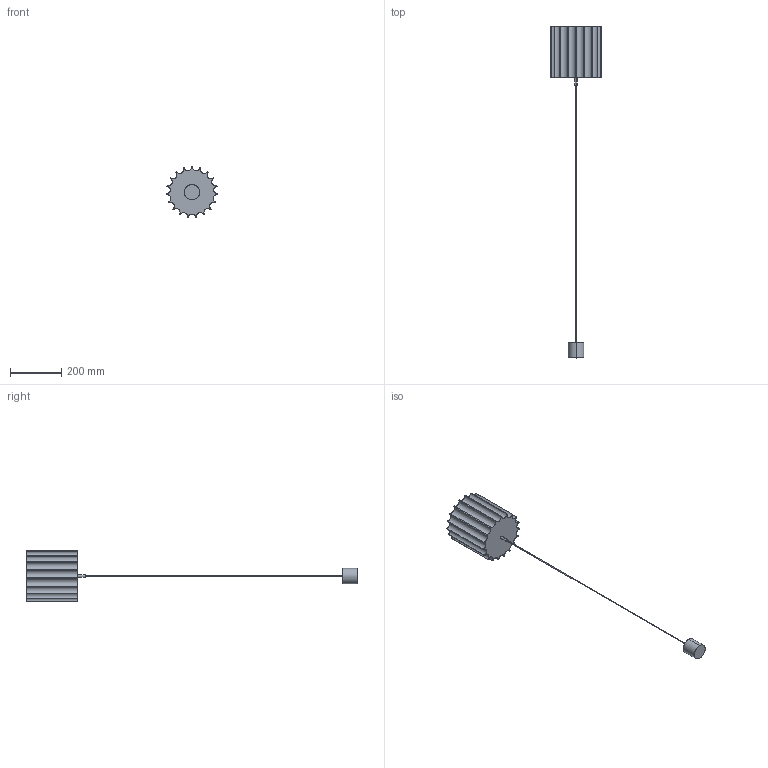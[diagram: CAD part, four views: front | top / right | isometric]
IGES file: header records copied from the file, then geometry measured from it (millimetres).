
Start section: SolidWorks IGES file using analytic representation for surfaces
Global section: file name: C:\Users\Agustin\Desktop\ARNOLD\2024 SEPTIEMBRE\2D\DENA\2D-3D C1088\DENA_C1088.IGS; native system: SolidWorks 2018; preprocessor: SolidWorks 2018; author: Agustin; date: 240918.092739; units: millimetre
Bounding box: 199.54 x 1290 x 198.87 mm (x, y, z)
Surface area: 344293 mm2 (no closed solid volume)
Topology: 0 solids, 0 shells, 68 faces, 1358 edges, 1358 vertices
Faces by surface type: revolution 57, bspline 11
